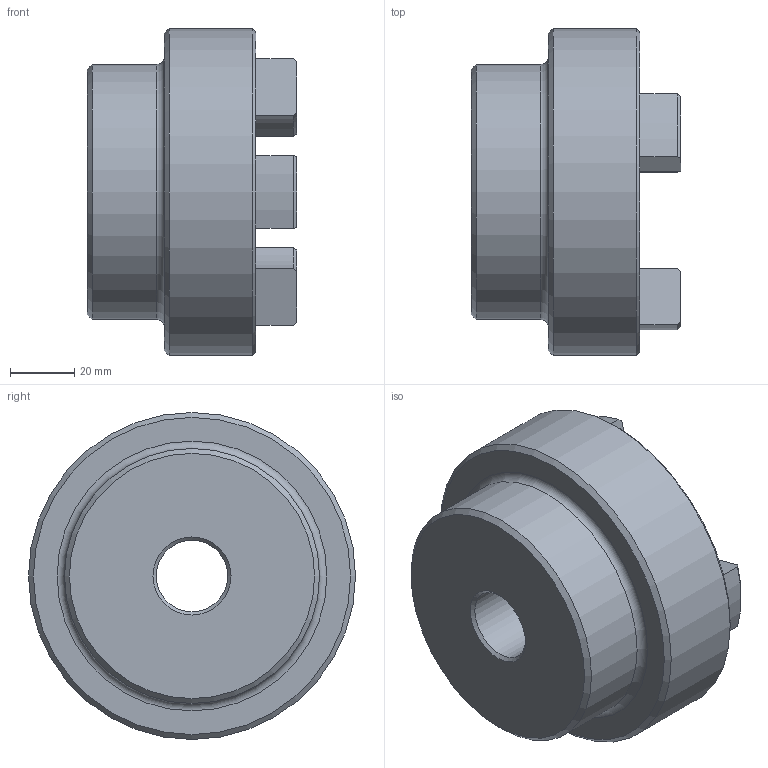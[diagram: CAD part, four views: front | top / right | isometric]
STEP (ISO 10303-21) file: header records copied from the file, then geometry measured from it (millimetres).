
FILE_DESCRIPTION (( 'STEP AP203' ), '1' );
FILE_NAME ('RC4.step', '2024-07-24T17:50:14', ( 'Adlan' ), ( '' ), 'SwSTEP 2.0', 'SolidWorks 2013', '' );
FILE_SCHEMA (( 'CONFIG_CONTROL_DESIGN' ));
Length unit declared in the file: inch
Products named in the file (1): RC4
Bounding box: 65.02 x 101.6 x 101.6 mm (x, y, z)
Volume: 266133.1 mm3; surface area: 40120.4 mm2
Topology: 1 solids, 1 shells, 60 faces, 146 edges, 90 vertices
Faces by surface type: cylinder 24, plane 13, torus 13, cone 10
Full cylindrical faces by diameter (mm): 22.233 x1, 79.248 x1, 101.6 x1
Entity records: 1841 total; most frequent: CARTESIAN_POINT 341, DIRECTION 324, ORIENTED_EDGE 274, EDGE_CURVE 137, AXIS2_PLACEMENT_3D 132, VERTEX_POINT 89, EDGE_LOOP 72, CIRCLE 71
